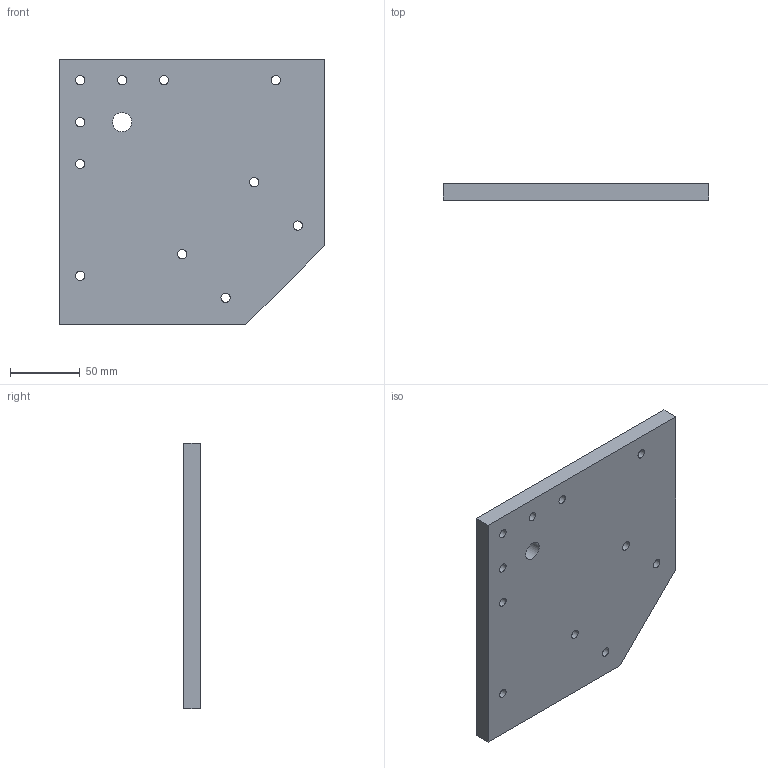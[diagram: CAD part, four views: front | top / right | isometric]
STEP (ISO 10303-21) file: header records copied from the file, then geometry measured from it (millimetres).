
FILE_DESCRIPTION(/* description */ ('Unknown'),/* implementation_level */ '2;1');
FILE_NAME(/* name */ 'FT06190',/* time_stamp */ '2026-09-29T15:01:53+08:00',/* author */ ('Unknown'),/* organization */ ('Unknown'),/* preprocessor_version */ 'ST-DEVELOPER v16.7',/* originating_system */ 'DEX',/* authorisation */ $);
FILE_SCHEMA (('AUTOMOTIVE_DESIGN {1 0 10303 214 3 1 1}'));
Length unit declared in the file: millimetre
Products named in the file (1): FT06190
Bounding box: 190 x 12 x 190 mm (x, y, z)
Volume: 391297.2 mm3; surface area: 81076.6 mm2
Topology: 1 solids, 1 shells, 38 faces, 89 edges, 61 vertices
Faces by surface type: cylinder 19, plane 19
Full cylindrical faces by diameter (mm): 6.5 x7, 6.647 x4, 11 x7, 13.835 x1
Entity records: 1309 total; most frequent: DIRECTION 181, CARTESIAN_POINT 160, ORIENTED_EDGE 130, EDGE_LOOP 89, FACE_BOUND 89, AXIS2_PLACEMENT_3D 77, EDGE_CURVE 65, VERTEX_POINT 56
